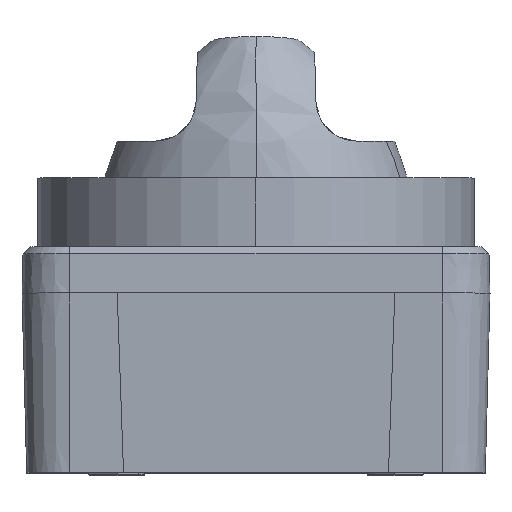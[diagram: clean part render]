
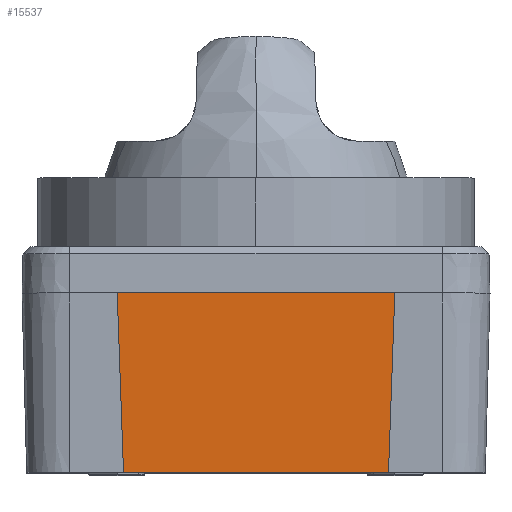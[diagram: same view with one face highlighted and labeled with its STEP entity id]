
A CAD part, top view. The second image highlights one B-rep face of the part: STEP entity #15537.
In plain terms, the highlighted planar face has unit normal (0, -0.026, 1).
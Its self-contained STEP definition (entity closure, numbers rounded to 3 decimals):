
#461 = AXIS2_PLACEMENT_3D ( 'NONE', #3964, #5420, #20396 ) ;
#926 = EDGE_CURVE ( 'NONE', #9311, #13033, #4860, .T. ) ;
#1107 = CARTESIAN_POINT ( 'NONE',  ( 29., 0., 3.53 ) ) ;
#2171 = ORIENTED_EDGE ( 'NONE', *, *, #926, .F. ) ;
#2222 = VECTOR ( 'NONE', #10920, 1000. ) ;
#2314 = CARTESIAN_POINT ( 'NONE',  ( -29., 0., 3.53 ) ) ;
#3655 = VERTEX_POINT ( 'NONE', #11458 ) ;
#3964 = CARTESIAN_POINT ( 'NONE',  ( -29.12, -31.7, 2.7 ) ) ;
#4005 = CARTESIAN_POINT ( 'NONE',  ( 0., -37.5, 2.548 ) ) ;
#4431 = VECTOR ( 'NONE', #15416, 1000. ) ;
#4860 = LINE ( 'NONE', #1107, #5390 ) ;
#5390 = VECTOR ( 'NONE', #14507, 1000. ) ;
#5420 = DIRECTION ( 'NONE',  ( 0., -0.026, 1. ) ) ;
#5462 = EDGE_CURVE ( 'NONE', #3655, #13033, #15652, .T. ) ;
#6011 = LINE ( 'NONE', #6730, #4431 ) ;
#6730 = CARTESIAN_POINT ( 'NONE',  ( -27.69, -37.5, 2.548 ) ) ;
#7046 = PLANE ( 'NONE',  #461 ) ;
#7522 = DIRECTION ( 'NONE',  ( 1., 0., 0. ) ) ;
#8427 = LINE ( 'NONE', #10828, #16304 ) ;
#8862 = EDGE_CURVE ( 'NONE', #3655, #9010, #6011, .T. ) ;
#9010 = VERTEX_POINT ( 'NONE', #2314 ) ;
#9311 = VERTEX_POINT ( 'NONE', #14518 ) ;
#9578 = EDGE_LOOP ( 'NONE', ( #9896, #2171, #19921, #10669 ) ) ;
#9726 = CARTESIAN_POINT ( 'NONE',  ( 27.69, -37.5, 2.548 ) ) ;
#9896 = ORIENTED_EDGE ( 'NONE', *, *, #5462, .T. ) ;
#10669 = ORIENTED_EDGE ( 'NONE', *, *, #8862, .F. ) ;
#10828 = CARTESIAN_POINT ( 'NONE',  ( 0., 0., 3.53 ) ) ;
#10920 = DIRECTION ( 'NONE',  ( 1., 0., 0. ) ) ;
#11458 = CARTESIAN_POINT ( 'NONE',  ( -27.69, -37.5, 2.548 ) ) ;
#13033 = VERTEX_POINT ( 'NONE', #9726 ) ;
#14507 = DIRECTION ( 'NONE',  ( -0.035, -0.999, -0.026 ) ) ;
#14518 = CARTESIAN_POINT ( 'NONE',  ( 29., 0., 3.53 ) ) ;
#15416 = DIRECTION ( 'NONE',  ( -0.035, 0.999, 0.026 ) ) ;
#15537 = ADVANCED_FACE ( 'NONE', ( #20780 ), #7046, .T. ) ;
#15652 = LINE ( 'NONE', #4005, #2222 ) ;
#16268 = EDGE_CURVE ( 'NONE', #9010, #9311, #8427, .T. ) ;
#16304 = VECTOR ( 'NONE', #7522, 1000. ) ;
#19921 = ORIENTED_EDGE ( 'NONE', *, *, #16268, .F. ) ;
#20396 = DIRECTION ( 'NONE',  ( 0., -1., -0.026 ) ) ;
#20780 = FACE_OUTER_BOUND ( 'NONE', #9578, .T. ) ;
